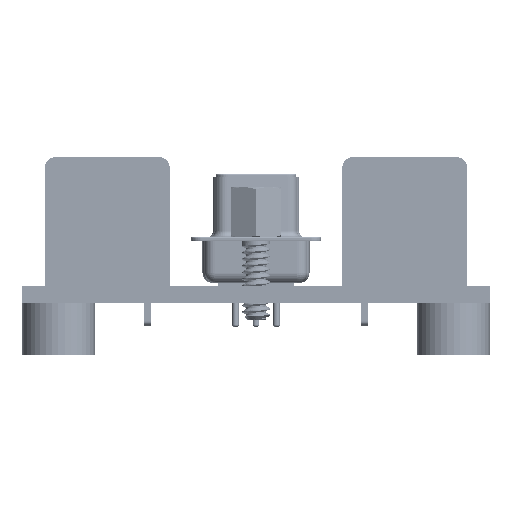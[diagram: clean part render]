
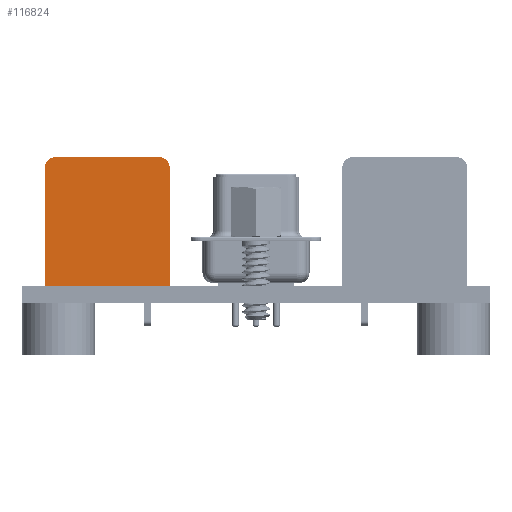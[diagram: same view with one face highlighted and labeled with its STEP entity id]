
A CAD part, left-side view. The second image highlights one B-rep face of the part: STEP entity #116824.
In plain terms, the highlighted planar face has unit normal (-1, 0, 0) as drawn and (0, 0, -1) by its records, which use the part's own axes.
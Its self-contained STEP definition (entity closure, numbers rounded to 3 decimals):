
#116824 = ADVANCED_FACE('',(#116825),#116877,.T.);
#116825 = FACE_BOUND('',#116826,.T.);
#116826 = EDGE_LOOP('',(#116827,#116837,#116845,#116853,#116862,#116870)
  );
#116827 = ORIENTED_EDGE('',*,*,#116828,.T.);
#116828 = EDGE_CURVE('',#116829,#116831,#116833,.T.);
#116829 = VERTEX_POINT('',#116830);
#116830 = CARTESIAN_POINT('',(6.,11.4,-0.463));
#116831 = VERTEX_POINT('',#116832);
#116832 = CARTESIAN_POINT('',(6.,0.,-0.463));
#116833 = LINE('',#116834,#116835);
#116834 = CARTESIAN_POINT('',(6.,11.4,-0.463));
#116835 = VECTOR('',#116836,1.);
#116836 = DIRECTION('',(-0.,-1.,-0.));
#116837 = ORIENTED_EDGE('',*,*,#116838,.T.);
#116838 = EDGE_CURVE('',#116831,#116839,#116841,.T.);
#116839 = VERTEX_POINT('',#116840);
#116840 = CARTESIAN_POINT('',(-6.,0.,-0.463));
#116841 = LINE('',#116842,#116843);
#116842 = CARTESIAN_POINT('',(-5.,0.,-0.463));
#116843 = VECTOR('',#116844,1.);
#116844 = DIRECTION('',(-1.,0.,-0.));
#116845 = ORIENTED_EDGE('',*,*,#116846,.T.);
#116846 = EDGE_CURVE('',#116839,#116847,#116849,.T.);
#116847 = VERTEX_POINT('',#116848);
#116848 = CARTESIAN_POINT('',(-6.,11.4,-0.463));
#116849 = LINE('',#116850,#116851);
#116850 = CARTESIAN_POINT('',(-6.,11.4,-0.463));
#116851 = VECTOR('',#116852,1.);
#116852 = DIRECTION('',(0.,1.,0.));
#116853 = ORIENTED_EDGE('',*,*,#116854,.T.);
#116854 = EDGE_CURVE('',#116847,#116855,#116857,.T.);
#116855 = VERTEX_POINT('',#116856);
#116856 = CARTESIAN_POINT('',(-5.,12.4,-0.463));
#116857 = CIRCLE('',#116858,1.);
#116858 = AXIS2_PLACEMENT_3D('',#116859,#116860,#116861);
#116859 = CARTESIAN_POINT('',(-5.,11.4,-0.463));
#116860 = DIRECTION('',(-0.,0.,-1.));
#116861 = DIRECTION('',(-1.,0.,0.));
#116862 = ORIENTED_EDGE('',*,*,#116863,.T.);
#116863 = EDGE_CURVE('',#116855,#116864,#116866,.T.);
#116864 = VERTEX_POINT('',#116865);
#116865 = CARTESIAN_POINT('',(5.,12.4,-0.463));
#116866 = LINE('',#116867,#116868);
#116867 = CARTESIAN_POINT('',(-5.,12.4,-0.463));
#116868 = VECTOR('',#116869,1.);
#116869 = DIRECTION('',(1.,-0.,0.));
#116870 = ORIENTED_EDGE('',*,*,#116871,.T.);
#116871 = EDGE_CURVE('',#116864,#116829,#116872,.T.);
#116872 = CIRCLE('',#116873,1.);
#116873 = AXIS2_PLACEMENT_3D('',#116874,#116875,#116876);
#116874 = CARTESIAN_POINT('',(5.,11.4,-0.463));
#116875 = DIRECTION('',(-0.,0.,-1.));
#116876 = DIRECTION('',(-1.,0.,0.));
#116877 = PLANE('',#116878);
#116878 = AXIS2_PLACEMENT_3D('',#116879,#116880,#116881);
#116879 = CARTESIAN_POINT('',(-5.,11.4,-0.463));
#116880 = DIRECTION('',(0.,0.,-1.));
#116881 = DIRECTION('',(-1.,0.,-0.));
